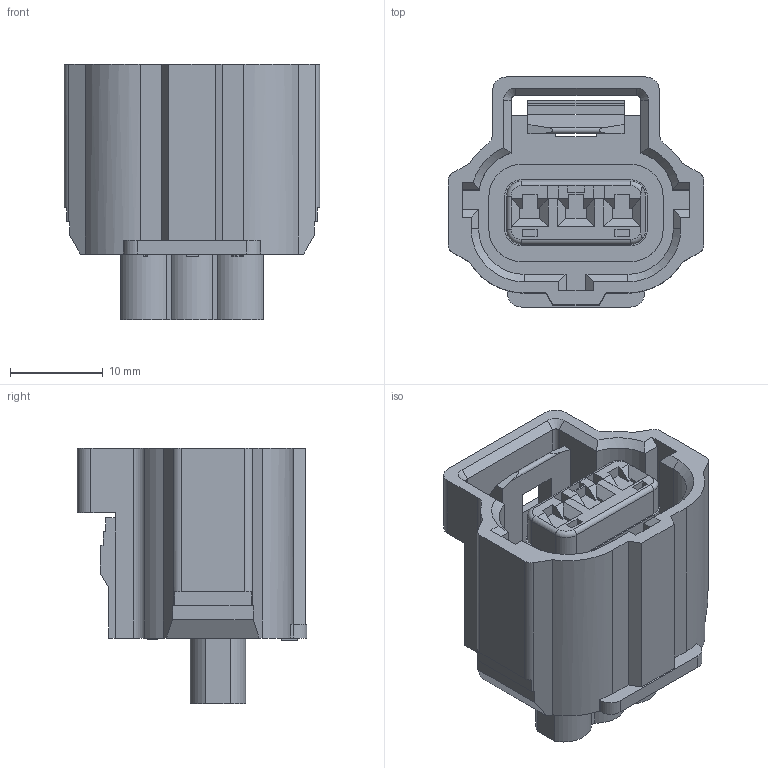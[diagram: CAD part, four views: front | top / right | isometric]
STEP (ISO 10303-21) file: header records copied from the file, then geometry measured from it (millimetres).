
FILE_DESCRIPTION((''),'2;1');
FILE_NAME('C-0184032-01-3','2007-09-03T',('workeradm'),('Tyco Electronics Corporation'),'PRO/ENGINEER BY PARAMETRIC TECHNOLOGY CORPORATION, 2005450','PRO/ENGINEER BY PARAMETRIC TECHNOLOGY CORPORATION, 2005450','');
FILE_SCHEMA(('CONFIG_CONTROL_DESIGN', 'GEOMETRIC_VALIDATION_PROPERTIES_MIM'));
Length unit declared in the file: millimetre
Products named in the file (1): C-0184032-01-3
Bounding box: 27.6 x 24.8 x 27.6 mm (x, y, z)
Volume: 6948.9 mm3; surface area: 5678.8 mm2
Topology: 1 solids, 1 shells, 373 faces, 1034 edges, 676 vertices
Faces by surface type: plane 311, cylinder 50, cone 6, torus 4, extrusion 2
Entity records: 11965 total; most frequent: CARTESIAN_POINT 2208, ORIENTED_EDGE 2068, DIRECTION 1884, EDGE_CURVE 1034, VECTOR 902, LINE 900, VERTEX_POINT 676, AXIS2_PLACEMENT_3D 491
